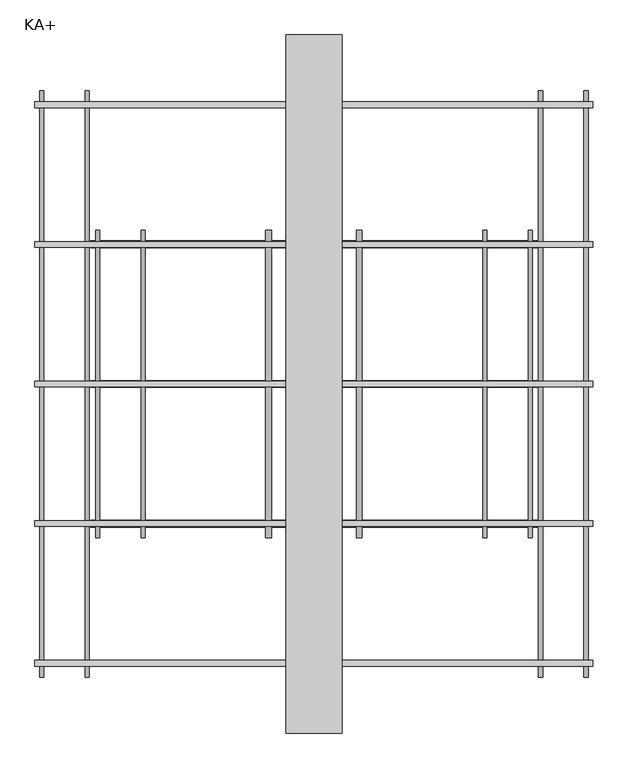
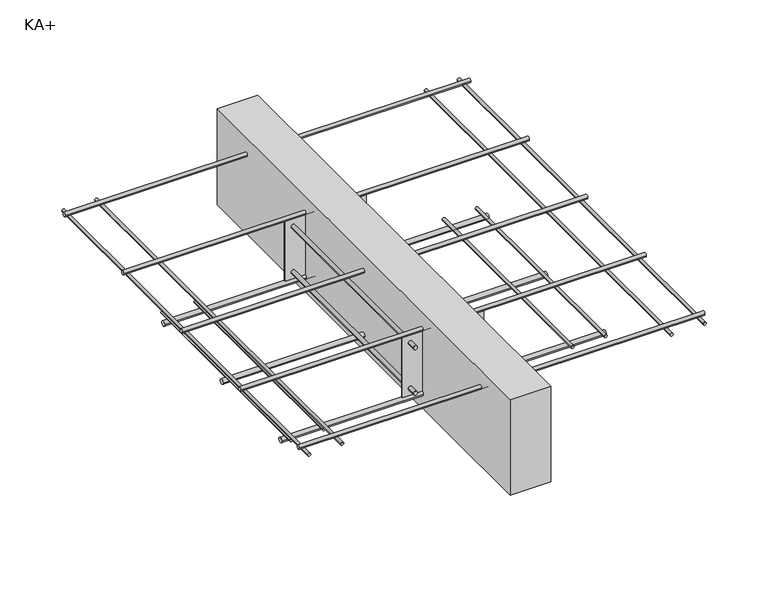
"""IFC4 building model written with IfcOpenShell, lengths in millimetres: proxy geometry, ACINOXplus_Typenreihe_K : KA+."""

import ifcopenshell
import ifcopenshell.guid

model = None  # the IFC model being written
_history = None  # IfcOwnerHistory: only IFC2X3 demands one
_inside = {}  # id of a spatial element -> (the spatial element, [elements in it])
_under = {}  # id of a project, library or spatial element -> (it, [spatial elements below it])
_declared = {}  # id of a project -> (the project, [libraries it declares])
_typed = {}  # id of a type object -> (the type object, [elements of that type])
_made_of = {}  # id of a material, layer set ... -> (it, [elements and type objects made of it])


def new_model(schema):
    """Start an empty IFC model of exactly this schema.

    Asked for "IFC4X3", IfcOpenShell would pick the latest addendum, in which some entities
    have other attributes; the version numbers below select the first issue.
    IFC2X3 requires an IfcOwnerHistory on every rooted entity: one is made here for all.
    """
    global model, _history
    if schema == "IFC4X3":
        model = ifcopenshell.file(schema_version=(4, 3, 0, 0))
    else:
        model = ifcopenshell.file(schema=schema)
    _inside.clear()
    _under.clear()
    _declared.clear()
    _typed.clear()
    _made_of.clear()
    _history = None
    if model.schema == "IFC2X3":
        org = make("IfcOrganization", Name="unknown")
        user = make(
            "IfcPersonAndOrganization",
            ThePerson=make("IfcPerson", FamilyName="unknown"),
            TheOrganization=org,
        )
        app = make(
            "IfcApplication",
            ApplicationDeveloper=org,
            Version="unknown",
            ApplicationFullName="unknown",
            ApplicationIdentifier="unknown",
        )
        _history = make(
            "IfcOwnerHistory",
            OwningUser=user,
            OwningApplication=app,
            ChangeAction="ADDED",
            CreationDate=0,
        )
    return model


def make(cls, **values):
    """One entity of the class cls with the attributes given. An attribute that is None is left unset."""
    return model.create_entity(
        cls, **{name: value for name, value in values.items() if value is not None}
    )


def rooted(cls, **values):
    """An entity with a GlobalId (a new one), such as an element, a storey or a relation."""
    return make(cls, GlobalId=ifcopenshell.guid.new(), OwnerHistory=_history, **values)


def si_unit(unit_type, name, prefix=None):
    """IfcSIUnit, for example si_unit("LENGTHUNIT", "METRE", prefix="MILLI")."""
    return make("IfcSIUnit", UnitType=unit_type, Prefix=prefix, Name=name)


def assignment(units):
    """IfcUnitAssignment: the units of a project."""
    return None if units is None else make("IfcUnitAssignment", Units=units)


def point(xyz):
    """IfcCartesianPoint."""
    return None if xyz is None else make("IfcCartesianPoint", Coordinates=xyz)


def direction(xyz):
    """IfcDirection."""
    return None if xyz is None else make("IfcDirection", DirectionRatios=xyz)


def frame(location, z_axis=None, x_axis=None):
    """IfcAxis2Placement3D, a coordinate frame: its origin and axes. An axis left out is left unset."""
    return make(
        "IfcAxis2Placement3D",
        Location=point(location),
        Axis=direction(z_axis),
        RefDirection=direction(x_axis),
    )


def frame_2d(location, x_axis=None):
    """IfcAxis2Placement2D, a coordinate frame in the plane: its origin and x axis."""
    return make(
        "IfcAxis2Placement2D", Location=point(location), RefDirection=direction(x_axis)
    )


def origin():
    """The frame at (0, 0, 0) with its axes left unset."""
    return frame((0.0, 0.0, 0.0))


def place(relative_to, where):
    """IfcLocalPlacement: puts the frame where relative to a parent placement (None: the world)."""
    return make(
        "IfcLocalPlacement", PlacementRelTo=relative_to, RelativePlacement=where
    )


def context(
    kind, dimensions, precision=None, world=None, true_north=None, identifier=None
):
    """IfcGeometricRepresentationContext, for example the 3D "Model" context."""
    return make(
        "IfcGeometricRepresentationContext",
        ContextIdentifier=identifier,
        ContextType=kind,
        CoordinateSpaceDimension=dimensions,
        Precision=precision,
        WorldCoordinateSystem=world,
        TrueNorth=true_north,
    )


def project(units=None, contexts=None):
    """IfcProject with its units and contexts."""
    return rooted(
        "IfcProject",
        Name="project",
        RepresentationContexts=contexts,
        UnitsInContext=assignment(units),
    )


def spatial(cls, under=None, at=None, **own):
    """A site, building, storey or space (cls), placed at a placement, below another one or the project."""
    s = rooted(cls, ObjectPlacement=at, **own)
    if under is not None:
        _under.setdefault(under.id(), (under, []))[1].append(s)
    return s


def polyline(points):
    """IfcPolyline through the points."""
    return make("IfcPolyline", Points=[point(p) for p in points])


def circle_curve(where, radius):
    """IfcCircle in the frame where."""
    return make("IfcCircle", Position=where, Radius=radius)


def trimmed(basis, trim1, trim2, sense, master):
    """IfcTrimmedCurve: the piece of a basis curve between two trims."""
    return make(
        "IfcTrimmedCurve",
        BasisCurve=basis,
        Trim1=trim1,
        Trim2=trim2,
        SenseAgreement=sense,
        MasterRepresentation=master,
    )


def segment(curve, same_sense, transition):
    """IfcCompositeCurveSegment."""
    return make(
        "IfcCompositeCurveSegment",
        Transition=transition,
        SameSense=same_sense,
        ParentCurve=curve,
    )


def composite_curve(segments, self_intersect=None):
    """IfcCompositeCurve: segments joined end to end."""
    return make("IfcCompositeCurve", Segments=segments, SelfIntersect=self_intersect)


def outline(outer, holes=None, kind="AREA"):
    """IfcArbitraryClosedProfileDef: a profile drawn as a closed curve; with holes, ...WithVoids."""
    if holes is None:
        return make("IfcArbitraryClosedProfileDef", ProfileType=kind, OuterCurve=outer)
    return make(
        "IfcArbitraryProfileDefWithVoids",
        ProfileType=kind,
        OuterCurve=outer,
        InnerCurves=holes,
    )


def extrude(swept, where, along, depth):
    """IfcExtrudedAreaSolid: the profile swept, set in the frame where, extruded along a direction by depth."""
    return make(
        "IfcExtrudedAreaSolid",
        SweptArea=swept,
        Position=where,
        ExtrudedDirection=direction(along),
        Depth=depth,
    )


def shape(context_of_items, identifier, shape_type, items):
    """IfcShapeRepresentation: the items that make up one representation, for example the "Body"."""
    return make(
        "IfcShapeRepresentation",
        ContextOfItems=context_of_items,
        RepresentationIdentifier=identifier,
        RepresentationType=shape_type,
        Items=items,
    )


def source(mapping_origin, context_of_items, identifier, shape_type, items):
    """IfcRepresentationMap: a shape defined once, which mapped items show again and again."""
    return make(
        "IfcRepresentationMap",
        MappingOrigin=mapping_origin,
        MappedRepresentation=shape(context_of_items, identifier, shape_type, items),
    )


def transform(
    local_origin,
    x_axis=None,
    y_axis=None,
    z_axis=None,
    scale=None,
    scale2=None,
    scale3=None,
    uniform=True,
):
    """IfcCartesianTransformationOperator3D, or its non-uniform kind. x_axis, y_axis, z_axis: its Axis1, 2, 3."""
    if uniform:
        return make(
            "IfcCartesianTransformationOperator3D",
            Axis1=direction(x_axis),
            Axis2=direction(y_axis),
            LocalOrigin=point(local_origin),
            Scale=scale,
            Axis3=direction(z_axis),
        )
    return make(
        "IfcCartesianTransformationOperator3DnonUniform",
        Axis1=direction(x_axis),
        Axis2=direction(y_axis),
        LocalOrigin=point(local_origin),
        Scale=scale,
        Axis3=direction(z_axis),
        Scale2=scale2,
        Scale3=scale3,
    )


def mapped(mapping_source, mapping_target):
    """IfcMappedItem: shows the shape of a source again, moved by a transform."""
    return make(
        "IfcMappedItem", MappingSource=mapping_source, MappingTarget=mapping_target
    )


def made_of(thing, what):
    """Note that an element or type object is made of a material, layer set ...; save() writes the relation."""
    if what is not None:
        _made_of.setdefault(what.id(), (what, []))[1].append(thing)
    return thing


def element(
    cls,
    number,
    at=None,
    inside=None,
    cuts=None,
    type_object=None,
    material=None,
    context=None,
    identifier="Body",
    shape_type=None,
    held_by="IfcProductDefinitionShape",
    body=None,
    shapes=None,
    **own,
):
    """One element of the class cls, such as IfcWall. Its Tag is "e" and its number.

    at: its placement. inside: the storey or other place that contains it. cuts: it is an
    opening in that element (IfcRelVoidsElement). A single representation is given by context,
    identifier, shape_type and body (its items); several are given by shapes. held_by: the class
    of the entity that holds the representations. save() writes the other relations.
    """
    e = rooted(cls, Tag="e%d" % number, ObjectPlacement=at, **own)
    if body is not None:
        shapes = [shape(context, identifier, shape_type, body)]
    if shapes is not None:
        e.Representation = make(held_by, Representations=shapes)
    if inside is not None:
        _inside.setdefault(inside.id(), (inside, []))[1].append(e)
    if cuts is not None:
        rooted(
            "IfcRelVoidsElement", RelatingBuildingElement=cuts, RelatedOpeningElement=e
        )
    if type_object is not None:
        _typed.setdefault(type_object.id(), (type_object, []))[1].append(e)
    return made_of(e, material)


def aggregate(whole, parts):
    """IfcRelAggregates: a whole, such as a stair, and the parts it consists of."""
    return rooted("IfcRelAggregates", RelatingObject=whole, RelatedObjects=parts)


def save(model, path):
    """Write the relations noted so far, then the file.

    IfcRelAggregates (storeys below a building ...), IfcRelContainedInSpatialStructure (elements
    in a storey), IfcRelDefinesByType, IfcRelAssociatesMaterial and IfcRelDeclares: one each for
    every whole, place, type object, material and project.
    """
    for whole, parts in _under.values():
        aggregate(whole, parts)
    for where, things in _inside.values():
        rooted(
            "IfcRelContainedInSpatialStructure",
            RelatedElements=things,
            RelatingStructure=where,
        )
    for kind, things in _typed.values():
        rooted("IfcRelDefinesByType", RelatedObjects=things, RelatingType=kind)
    for what, things in _made_of.values():
        rooted("IfcRelAssociatesMaterial", RelatedObjects=things, RelatingMaterial=what)
    for by, libraries in _declared.values():
        rooted("IfcRelDeclares", RelatingContext=by, RelatedDefinitions=libraries)
    model.write(path)


def ka_3afaf4a8(model_context):
    return source(origin(), model_context, "Body", "SweptSolid", [
        extrude(outline(polyline([(40.0, 500.0), (40.0, -500.0), (-40.0, -500.0), (-40.0, 500.0), (40.0, 500.0)])), frame((0.0, 0.0, -200.0), z_axis=(0.0, 0.0, 1.0), x_axis=(1.0, 0.0, 0.0)), (0.0, 0.0, 1.0), 200.0),
        extrude(outline(polyline([(80.0, -198.5), (80.0, -201.5), (-80.0, -201.5), (-80.0, -198.5), (80.0, -198.5)])), frame((0.0, 0.0, -163.0), z_axis=(0.0, 0.0, 1.0), x_axis=(1.0, 0.0, 0.0)), (0.0, 0.0, 1.0), 125.0),
        extrude(outline(polyline([(80.0, 201.5), (80.0, 198.5), (-80.0, 198.5), (-80.0, 201.5), (80.0, 201.5)])), frame((0.0, 0.0, -163.0), z_axis=(0.0, 0.0, 1.0), x_axis=(1.0, 0.0, 0.0)), (0.0, 0.0, 1.0), 125.0),
        extrude(outline(composite_curve([segment(trimmed(circle_curve(frame_2d((-148.0, -65.0)), 4.0), [point((-148.0, -69.0))], [point((-148.0, -61.0))], False, "CARTESIAN"), True, "CONTINUOUS"), segment(trimmed(circle_curve(frame_2d((-148.0, -65.0)), 4.0), [point((-148.0, -61.0))], [point((-148.0, -69.0))], False, "CARTESIAN"), True, "CONTINUOUS")], self_intersect=False)), frame((0.0, 201.5, 0.0), z_axis=(0.0, 1.0, 0.0), x_axis=(0.0, 0.0, 1.0)), (0.0, 0.0, 1.0), 18.5),
        extrude(outline(composite_curve([segment(trimmed(circle_curve(frame_2d((-148.0, -65.0)), 4.0), [point((-148.0, -61.0))], [point((-148.0, -69.0))], False, "CARTESIAN"), True, "CONTINUOUS"), segment(trimmed(circle_curve(frame_2d((-148.0, -65.0)), 4.0), [point((-148.0, -69.0))], [point((-148.0, -61.0))], False, "CARTESIAN"), True, "CONTINUOUS")], self_intersect=False)), frame((0.0, -220.0, 0.0), z_axis=(0.0, 1.0, 0.0), x_axis=(0.0, 0.0, 1.0)), (0.0, 0.0, 1.0), 18.5),
        extrude(outline(composite_curve([segment(trimmed(circle_curve(frame_2d((-148.0, -65.0)), 4.0), [point((-148.0, -69.0))], [point((-148.0, -61.0))], False, "CARTESIAN"), True, "CONTINUOUS"), segment(trimmed(circle_curve(frame_2d((-148.0, -65.0)), 4.0), [point((-148.0, -61.0))], [point((-148.0, -69.0))], False, "CARTESIAN"), True, "CONTINUOUS")], self_intersect=False)), frame((0.0, -198.5, 0.0), z_axis=(0.0, 1.0, 0.0), x_axis=(0.0, 0.0, 1.0)), (0.0, 0.0, 1.0), 397.0),
        extrude(outline(composite_curve([segment(trimmed(circle_curve(frame_2d((-148.0, 65.0)), 4.0), [point((-148.0, 61.0))], [point((-148.0, 69.0))], False, "CARTESIAN"), True, "CONTINUOUS"), segment(trimmed(circle_curve(frame_2d((-148.0, 65.0)), 4.0), [point((-148.0, 69.0))], [point((-148.0, 61.0))], False, "CARTESIAN"), True, "CONTINUOUS")], self_intersect=False)), frame((0.0, 201.5, 0.0), z_axis=(0.0, 1.0, 0.0), x_axis=(0.0, 0.0, 1.0)), (0.0, 0.0, 1.0), 18.5),
        extrude(outline(composite_curve([segment(trimmed(circle_curve(frame_2d((-148.0, 65.0)), 4.0), [point((-148.0, 69.0))], [point((-148.0, 61.0))], False, "CARTESIAN"), True, "CONTINUOUS"), segment(trimmed(circle_curve(frame_2d((-148.0, 65.0)), 4.0), [point((-148.0, 61.0))], [point((-148.0, 69.0))], False, "CARTESIAN"), True, "CONTINUOUS")], self_intersect=False)), frame((0.0, -220.0, 0.0), z_axis=(0.0, 1.0, 0.0), x_axis=(0.0, 0.0, 1.0)), (0.0, 0.0, 1.0), 18.5),
        extrude(outline(composite_curve([segment(trimmed(circle_curve(frame_2d((-148.0, 65.0)), 4.0), [point((-148.0, 61.0))], [point((-148.0, 69.0))], False, "CARTESIAN"), True, "CONTINUOUS"), segment(trimmed(circle_curve(frame_2d((-148.0, 65.0)), 4.0), [point((-148.0, 69.0))], [point((-148.0, 61.0))], False, "CARTESIAN"), True, "CONTINUOUS")], self_intersect=False)), frame((0.0, -198.5, 0.0), z_axis=(0.0, 1.0, 0.0), x_axis=(0.0, 0.0, 1.0)), (0.0, 0.0, 1.0), 397.0),
        extrude(outline(composite_curve([segment(trimmed(circle_curve(frame_2d((-53.0, -65.0)), 4.0), [point((-53.0, -69.0))], [point((-53.0, -61.0))], False, "CARTESIAN"), True, "CONTINUOUS"), segment(trimmed(circle_curve(frame_2d((-53.0, -65.0)), 4.0), [point((-53.0, -61.0))], [point((-53.0, -69.0))], False, "CARTESIAN"), True, "CONTINUOUS")], self_intersect=False)), frame((0.0, 201.5, 0.0), z_axis=(0.0, 1.0, 0.0), x_axis=(0.0, 0.0, 1.0)), (0.0, 0.0, 1.0), 18.5),
        extrude(outline(composite_curve([segment(trimmed(circle_curve(frame_2d((-53.0, -65.0)), 4.0), [point((-53.0, -61.0))], [point((-53.0, -69.0))], False, "CARTESIAN"), True, "CONTINUOUS"), segment(trimmed(circle_curve(frame_2d((-53.0, -65.0)), 4.0), [point((-53.0, -69.0))], [point((-53.0, -61.0))], False, "CARTESIAN"), True, "CONTINUOUS")], self_intersect=False)), frame((0.0, -220.0, 0.0), z_axis=(0.0, 1.0, 0.0), x_axis=(0.0, 0.0, 1.0)), (0.0, 0.0, 1.0), 18.5),
        extrude(outline(composite_curve([segment(trimmed(circle_curve(frame_2d((-53.0, -65.0)), 4.0), [point((-53.0, -69.0))], [point((-53.0, -61.0))], False, "CARTESIAN"), True, "CONTINUOUS"), segment(trimmed(circle_curve(frame_2d((-53.0, -65.0)), 4.0), [point((-53.0, -61.0))], [point((-53.0, -69.0))], False, "CARTESIAN"), True, "CONTINUOUS")], self_intersect=False)), frame((0.0, -198.5, 0.0), z_axis=(0.0, 1.0, 0.0), x_axis=(0.0, 0.0, 1.0)), (0.0, 0.0, 1.0), 397.0),
        extrude(outline(composite_curve([segment(trimmed(circle_curve(frame_2d((-53.0, 65.0)), 4.0), [point((-53.0, 61.0))], [point((-53.0, 69.0))], False, "CARTESIAN"), True, "CONTINUOUS"), segment(trimmed(circle_curve(frame_2d((-53.0, 65.0)), 4.0), [point((-53.0, 69.0))], [point((-53.0, 61.0))], False, "CARTESIAN"), True, "CONTINUOUS")], self_intersect=False)), frame((0.0, 201.5, 0.0), z_axis=(0.0, 1.0, 0.0), x_axis=(0.0, 0.0, 1.0)), (0.0, 0.0, 1.0), 18.5),
        extrude(outline(composite_curve([segment(trimmed(circle_curve(frame_2d((-53.0, 65.0)), 4.0), [point((-53.0, 69.0))], [point((-53.0, 61.0))], False, "CARTESIAN"), True, "CONTINUOUS"), segment(trimmed(circle_curve(frame_2d((-53.0, 65.0)), 4.0), [point((-53.0, 61.0))], [point((-53.0, 69.0))], False, "CARTESIAN"), True, "CONTINUOUS")], self_intersect=False)), frame((0.0, -220.0, 0.0), z_axis=(0.0, 1.0, 0.0), x_axis=(0.0, 0.0, 1.0)), (0.0, 0.0, 1.0), 18.5),
        extrude(outline(composite_curve([segment(trimmed(circle_curve(frame_2d((-53.0, 65.0)), 4.0), [point((-53.0, 61.0))], [point((-53.0, 69.0))], False, "CARTESIAN"), True, "CONTINUOUS"), segment(trimmed(circle_curve(frame_2d((-53.0, 65.0)), 4.0), [point((-53.0, 69.0))], [point((-53.0, 61.0))], False, "CARTESIAN"), True, "CONTINUOUS")], self_intersect=False)), frame((0.0, -198.5, 0.0), z_axis=(0.0, 1.0, 0.0), x_axis=(0.0, 0.0, 1.0)), (0.0, 0.0, 1.0), 397.0),
        extrude(outline(composite_curve([segment(trimmed(circle_curve(frame_2d((0.0, -168.0)), 5.0), [point((-5.0, -168.0))], [point((5.0, -168.0))], False, "CARTESIAN"), True, "CONTINUOUS"), segment(trimmed(circle_curve(frame_2d((0.0, -168.0)), 5.0), [point((5.0, -168.0))], [point((-5.0, -168.0))], False, "CARTESIAN"), True, "CONTINUOUS")], self_intersect=False)), frame((-320.0, 0.0, 0.0), z_axis=(1.0, 0.0, 0.0), x_axis=(0.0, 1.0, 0.0)), (0.0, 0.0, 1.0), 640.0),
        extrude(outline(composite_curve([segment(trimmed(circle_curve(frame_2d((200.0, -168.0)), 5.0), [point((195.0, -168.0))], [point((205.0, -168.0))], False, "CARTESIAN"), True, "CONTINUOUS"), segment(trimmed(circle_curve(frame_2d((200.0, -168.0)), 5.0), [point((205.0, -168.0))], [point((195.0, -168.0))], False, "CARTESIAN"), True, "CONTINUOUS")], self_intersect=False)), frame((-320.0, 0.0, 0.0), z_axis=(1.0, 0.0, 0.0), x_axis=(0.0, 1.0, 0.0)), (0.0, 0.0, 1.0), 640.0),
        extrude(outline(composite_curve([segment(trimmed(circle_curve(frame_2d((-200.0, -168.0)), 5.0), [point((-205.0, -168.0))], [point((-195.0, -168.0))], False, "CARTESIAN"), True, "CONTINUOUS"), segment(trimmed(circle_curve(frame_2d((-200.0, -168.0)), 5.0), [point((-195.0, -168.0))], [point((-205.0, -168.0))], False, "CARTESIAN"), True, "CONTINUOUS")], self_intersect=False)), frame((-320.0, 0.0, 0.0), z_axis=(1.0, 0.0, 0.0), x_axis=(0.0, 1.0, 0.0)), (0.0, 0.0, 1.0), 640.0),
        extrude(outline(composite_curve([segment(trimmed(circle_curve(frame_2d((0.0, -34.0)), 4.0), [point((-4.0, -34.0))], [point((4.0, -34.0))], False, "CARTESIAN"), True, "CONTINUOUS"), segment(trimmed(circle_curve(frame_2d((0.0, -34.0)), 4.0), [point((4.0, -34.0))], [point((-4.0, -34.0))], False, "CARTESIAN"), True, "CONTINUOUS")], self_intersect=False)), frame((-400.0, 0.0, 0.0), z_axis=(1.0, 0.0, 0.0), x_axis=(0.0, 1.0, 0.0)), (0.0, 0.0, 1.0), 800.0),
        extrude(outline(composite_curve([segment(trimmed(circle_curve(frame_2d((200.0, -34.0)), 4.0), [point((196.0, -34.0))], [point((204.0, -34.0))], False, "CARTESIAN"), True, "CONTINUOUS"), segment(trimmed(circle_curve(frame_2d((200.0, -34.0)), 4.0), [point((204.0, -34.0))], [point((196.0, -34.0))], False, "CARTESIAN"), True, "CONTINUOUS")], self_intersect=False)), frame((-400.0, 0.0, 0.0), z_axis=(1.0, 0.0, 0.0), x_axis=(0.0, 1.0, 0.0)), (0.0, 0.0, 1.0), 800.0),
        extrude(outline(composite_curve([segment(trimmed(circle_curve(frame_2d((400.0, -34.0)), 4.0), [point((396.0, -34.0))], [point((404.0, -34.0))], False, "CARTESIAN"), True, "CONTINUOUS"), segment(trimmed(circle_curve(frame_2d((400.0, -34.0)), 4.0), [point((404.0, -34.0))], [point((396.0, -34.0))], False, "CARTESIAN"), True, "CONTINUOUS")], self_intersect=False)), frame((-400.0, 0.0, 0.0), z_axis=(1.0, 0.0, 0.0), x_axis=(0.0, 1.0, 0.0)), (0.0, 0.0, 1.0), 800.0),
        extrude(outline(composite_curve([segment(trimmed(circle_curve(frame_2d((-200.0, -34.0)), 4.0), [point((-204.0, -34.0))], [point((-196.0, -34.0))], False, "CARTESIAN"), True, "CONTINUOUS"), segment(trimmed(circle_curve(frame_2d((-200.0, -34.0)), 4.0), [point((-196.0, -34.0))], [point((-204.0, -34.0))], False, "CARTESIAN"), True, "CONTINUOUS")], self_intersect=False)), frame((-400.0, 0.0, 0.0), z_axis=(1.0, 0.0, 0.0), x_axis=(0.0, 1.0, 0.0)), (0.0, 0.0, 1.0), 800.0),
        extrude(outline(composite_curve([segment(trimmed(circle_curve(frame_2d((-400.0, -34.0)), 4.0), [point((-404.0, -34.0))], [point((-396.0, -34.0))], False, "CARTESIAN"), True, "CONTINUOUS"), segment(trimmed(circle_curve(frame_2d((-400.0, -34.0)), 4.0), [point((-396.0, -34.0))], [point((-404.0, -34.0))], False, "CARTESIAN"), True, "CONTINUOUS")], self_intersect=False)), frame((-400.0, 0.0, 0.0), z_axis=(1.0, 0.0, 0.0), x_axis=(0.0, 1.0, 0.0)), (0.0, 0.0, 1.0), 800.0),
        extrude(outline(composite_curve([segment(trimmed(circle_curve(frame_2d((-160.0, -310.0)), 3.0), [point((-160.0, -307.0))], [point((-160.0, -313.0))], False, "CARTESIAN"), True, "CONTINUOUS"), segment(trimmed(circle_curve(frame_2d((-160.0, -310.0)), 3.0), [point((-160.0, -313.0))], [point((-160.0, -307.0))], False, "CARTESIAN"), True, "CONTINUOUS")], self_intersect=False)), frame((0.0, -220.0, 0.0), z_axis=(0.0, 1.0, 0.0), x_axis=(0.0, 0.0, 1.0)), (0.0, 0.0, 1.0), 440.0),
        extrude(outline(composite_curve([segment(trimmed(circle_curve(frame_2d((-160.0, -245.0)), 3.0), [point((-160.0, -242.0))], [point((-160.0, -248.0))], False, "CARTESIAN"), True, "CONTINUOUS"), segment(trimmed(circle_curve(frame_2d((-160.0, -245.0)), 3.0), [point((-160.0, -248.0))], [point((-160.0, -242.0))], False, "CARTESIAN"), True, "CONTINUOUS")], self_intersect=False)), frame((0.0, -220.0, 0.0), z_axis=(0.0, 1.0, 0.0), x_axis=(0.0, 0.0, 1.0)), (0.0, 0.0, 1.0), 440.0),
        extrude(outline(composite_curve([segment(trimmed(circle_curve(frame_2d((-160.0, 245.0)), 3.0), [point((-160.0, 248.0))], [point((-160.0, 242.0))], False, "CARTESIAN"), True, "CONTINUOUS"), segment(trimmed(circle_curve(frame_2d((-160.0, 245.0)), 3.0), [point((-160.0, 242.0))], [point((-160.0, 248.0))], False, "CARTESIAN"), True, "CONTINUOUS")], self_intersect=False)), frame((0.0, -220.0, 0.0), z_axis=(0.0, 1.0, 0.0), x_axis=(0.0, 0.0, 1.0)), (0.0, 0.0, 1.0), 440.0),
        extrude(outline(composite_curve([segment(trimmed(circle_curve(frame_2d((-160.0, 310.0)), 3.0), [point((-160.0, 313.0))], [point((-160.0, 307.0))], False, "CARTESIAN"), True, "CONTINUOUS"), segment(trimmed(circle_curve(frame_2d((-160.0, 310.0)), 3.0), [point((-160.0, 307.0))], [point((-160.0, 313.0))], False, "CARTESIAN"), True, "CONTINUOUS")], self_intersect=False)), frame((0.0, -220.0, 0.0), z_axis=(0.0, 1.0, 0.0), x_axis=(0.0, 0.0, 1.0)), (0.0, 0.0, 1.0), 440.0),
        extrude(outline(composite_curve([segment(trimmed(circle_curve(frame_2d((-41.0, 325.0)), 3.0), [point((-41.0, 328.0))], [point((-41.0, 322.0))], False, "CARTESIAN"), True, "CONTINUOUS"), segment(trimmed(circle_curve(frame_2d((-41.0, 325.0)), 3.0), [point((-41.0, 322.0))], [point((-41.0, 328.0))], False, "CARTESIAN"), True, "CONTINUOUS")], self_intersect=False)), frame((0.0, -420.0, 0.0), z_axis=(0.0, 1.0, 0.0), x_axis=(0.0, 0.0, 1.0)), (0.0, 0.0, 1.0), 840.0),
        extrude(outline(composite_curve([segment(trimmed(circle_curve(frame_2d((-41.0, 390.0)), 3.0), [point((-41.0, 393.0))], [point((-41.0, 387.0))], False, "CARTESIAN"), True, "CONTINUOUS"), segment(trimmed(circle_curve(frame_2d((-41.0, 390.0)), 3.0), [point((-41.0, 387.0))], [point((-41.0, 393.0))], False, "CARTESIAN"), True, "CONTINUOUS")], self_intersect=False)), frame((0.0, -420.0, 0.0), z_axis=(0.0, 1.0, 0.0), x_axis=(0.0, 0.0, 1.0)), (0.0, 0.0, 1.0), 840.0),
        extrude(outline(composite_curve([segment(trimmed(circle_curve(frame_2d((-41.0, -390.0)), 3.0), [point((-41.0, -387.0))], [point((-41.0, -393.0))], False, "CARTESIAN"), True, "CONTINUOUS"), segment(trimmed(circle_curve(frame_2d((-41.0, -390.0)), 3.0), [point((-41.0, -393.0))], [point((-41.0, -387.0))], False, "CARTESIAN"), True, "CONTINUOUS")], self_intersect=False)), frame((0.0, -420.0, 0.0), z_axis=(0.0, 1.0, 0.0), x_axis=(0.0, 0.0, 1.0)), (0.0, 0.0, 1.0), 840.0),
        extrude(outline(composite_curve([segment(trimmed(circle_curve(frame_2d((-41.0, -325.0)), 3.0), [point((-41.0, -322.0))], [point((-41.0, -328.0))], False, "CARTESIAN"), True, "CONTINUOUS"), segment(trimmed(circle_curve(frame_2d((-41.0, -325.0)), 3.0), [point((-41.0, -328.0))], [point((-41.0, -322.0))], False, "CARTESIAN"), True, "CONTINUOUS")], self_intersect=False)), frame((0.0, -420.0, 0.0), z_axis=(0.0, 1.0, 0.0), x_axis=(0.0, 0.0, 1.0)), (0.0, 0.0, 1.0), 840.0),
    ])


if __name__ == "__main__":
    model = new_model("IFC4")
    model_context = context("Model", 3, world=origin())
    ifc_project = project(units=[si_unit("LENGTHUNIT", "METRE", prefix="MILLI")], contexts=[model_context])
    site = spatial("IfcSite", under=ifc_project)
    building = spatial("IfcBuilding", under=site)
    placement = place(None, origin())
    ka_shape = ka_3afaf4a8(model_context)
    element("IfcBuildingElementProxy", 1, Name="ACINOXplus_Typenreihe_K : KA+", ObjectType="ACINOXplus_Typenreihe_K : KA+", at=placement, inside=building, context=model_context, shape_type="MappedRepresentation", body=[
        mapped(ka_shape, transform((0.0, 0.0, 0.0), x_axis=(1.0, 0.0, 0.0), y_axis=(0.0, 1.0, 0.0), z_axis=(0.0, 0.0, 1.0))),
    ])
    save(model, "model.ifc")
